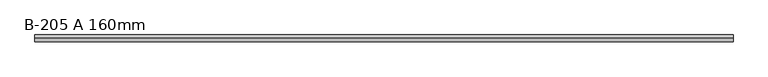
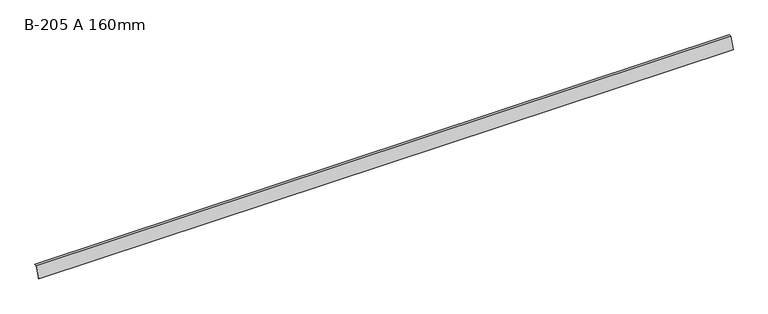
"""IFC4 building model written with IfcOpenShell, lengths in millimetres: proxy geometry, GROVIK_Flashing_Eaves : B-205 A 160mm."""

import ifcopenshell
import ifcopenshell.guid

model = None  # the IFC model being written
_history = None  # IfcOwnerHistory: only IFC2X3 demands one
_inside = {}  # id of a spatial element -> (the spatial element, [elements in it])
_under = {}  # id of a project, library or spatial element -> (it, [spatial elements below it])
_declared = {}  # id of a project -> (the project, [libraries it declares])
_typed = {}  # id of a type object -> (the type object, [elements of that type])
_made_of = {}  # id of a material, layer set ... -> (it, [elements and type objects made of it])


def new_model(schema):
    """Start an empty IFC model of exactly this schema.

    Asked for "IFC4X3", IfcOpenShell would pick the latest addendum, in which some entities
    have other attributes; the version numbers below select the first issue.
    IFC2X3 requires an IfcOwnerHistory on every rooted entity: one is made here for all.
    """
    global model, _history
    if schema == "IFC4X3":
        model = ifcopenshell.file(schema_version=(4, 3, 0, 0))
    else:
        model = ifcopenshell.file(schema=schema)
    _inside.clear()
    _under.clear()
    _declared.clear()
    _typed.clear()
    _made_of.clear()
    _history = None
    if model.schema == "IFC2X3":
        org = make("IfcOrganization", Name="unknown")
        user = make(
            "IfcPersonAndOrganization",
            ThePerson=make("IfcPerson", FamilyName="unknown"),
            TheOrganization=org,
        )
        app = make(
            "IfcApplication",
            ApplicationDeveloper=org,
            Version="unknown",
            ApplicationFullName="unknown",
            ApplicationIdentifier="unknown",
        )
        _history = make(
            "IfcOwnerHistory",
            OwningUser=user,
            OwningApplication=app,
            ChangeAction="ADDED",
            CreationDate=0,
        )
    return model


def make(cls, **values):
    """One entity of the class cls with the attributes given. An attribute that is None is left unset."""
    return model.create_entity(
        cls, **{name: value for name, value in values.items() if value is not None}
    )


def rooted(cls, **values):
    """An entity with a GlobalId (a new one), such as an element, a storey or a relation."""
    return make(cls, GlobalId=ifcopenshell.guid.new(), OwnerHistory=_history, **values)


def si_unit(unit_type, name, prefix=None):
    """IfcSIUnit, for example si_unit("LENGTHUNIT", "METRE", prefix="MILLI")."""
    return make("IfcSIUnit", UnitType=unit_type, Prefix=prefix, Name=name)


def assignment(units):
    """IfcUnitAssignment: the units of a project."""
    return None if units is None else make("IfcUnitAssignment", Units=units)


def point(xyz):
    """IfcCartesianPoint."""
    return None if xyz is None else make("IfcCartesianPoint", Coordinates=xyz)


def direction(xyz):
    """IfcDirection."""
    return None if xyz is None else make("IfcDirection", DirectionRatios=xyz)


def frame(location, z_axis=None, x_axis=None):
    """IfcAxis2Placement3D, a coordinate frame: its origin and axes. An axis left out is left unset."""
    return make(
        "IfcAxis2Placement3D",
        Location=point(location),
        Axis=direction(z_axis),
        RefDirection=direction(x_axis),
    )


def origin():
    """The frame at (0, 0, 0) with its axes left unset."""
    return frame((0.0, 0.0, 0.0))


def place(relative_to, where):
    """IfcLocalPlacement: puts the frame where relative to a parent placement (None: the world)."""
    return make(
        "IfcLocalPlacement", PlacementRelTo=relative_to, RelativePlacement=where
    )


def context(
    kind, dimensions, precision=None, world=None, true_north=None, identifier=None
):
    """IfcGeometricRepresentationContext, for example the 3D "Model" context."""
    return make(
        "IfcGeometricRepresentationContext",
        ContextIdentifier=identifier,
        ContextType=kind,
        CoordinateSpaceDimension=dimensions,
        Precision=precision,
        WorldCoordinateSystem=world,
        TrueNorth=true_north,
    )


def project(units=None, contexts=None):
    """IfcProject with its units and contexts."""
    return rooted(
        "IfcProject",
        Name="project",
        RepresentationContexts=contexts,
        UnitsInContext=assignment(units),
    )


def spatial(cls, under=None, at=None, **own):
    """A site, building, storey or space (cls), placed at a placement, below another one or the project."""
    s = rooted(cls, ObjectPlacement=at, **own)
    if under is not None:
        _under.setdefault(under.id(), (under, []))[1].append(s)
    return s


def polyline(points):
    """IfcPolyline through the points."""
    return make("IfcPolyline", Points=[point(p) for p in points])


def outline(outer, holes=None, kind="AREA"):
    """IfcArbitraryClosedProfileDef: a profile drawn as a closed curve; with holes, ...WithVoids."""
    if holes is None:
        return make("IfcArbitraryClosedProfileDef", ProfileType=kind, OuterCurve=outer)
    return make(
        "IfcArbitraryProfileDefWithVoids",
        ProfileType=kind,
        OuterCurve=outer,
        InnerCurves=holes,
    )


def extrude(swept, where, along, depth):
    """IfcExtrudedAreaSolid: the profile swept, set in the frame where, extruded along a direction by depth."""
    return make(
        "IfcExtrudedAreaSolid",
        SweptArea=swept,
        Position=where,
        ExtrudedDirection=direction(along),
        Depth=depth,
    )


def shape(context_of_items, identifier, shape_type, items):
    """IfcShapeRepresentation: the items that make up one representation, for example the "Body"."""
    return make(
        "IfcShapeRepresentation",
        ContextOfItems=context_of_items,
        RepresentationIdentifier=identifier,
        RepresentationType=shape_type,
        Items=items,
    )


def source(mapping_origin, context_of_items, identifier, shape_type, items):
    """IfcRepresentationMap: a shape defined once, which mapped items show again and again."""
    return make(
        "IfcRepresentationMap",
        MappingOrigin=mapping_origin,
        MappedRepresentation=shape(context_of_items, identifier, shape_type, items),
    )


def transform(
    local_origin,
    x_axis=None,
    y_axis=None,
    z_axis=None,
    scale=None,
    scale2=None,
    scale3=None,
    uniform=True,
):
    """IfcCartesianTransformationOperator3D, or its non-uniform kind. x_axis, y_axis, z_axis: its Axis1, 2, 3."""
    if uniform:
        return make(
            "IfcCartesianTransformationOperator3D",
            Axis1=direction(x_axis),
            Axis2=direction(y_axis),
            LocalOrigin=point(local_origin),
            Scale=scale,
            Axis3=direction(z_axis),
        )
    return make(
        "IfcCartesianTransformationOperator3DnonUniform",
        Axis1=direction(x_axis),
        Axis2=direction(y_axis),
        LocalOrigin=point(local_origin),
        Scale=scale,
        Axis3=direction(z_axis),
        Scale2=scale2,
        Scale3=scale3,
    )


def mapped(mapping_source, mapping_target):
    """IfcMappedItem: shows the shape of a source again, moved by a transform."""
    return make(
        "IfcMappedItem", MappingSource=mapping_source, MappingTarget=mapping_target
    )


def made_of(thing, what):
    """Note that an element or type object is made of a material, layer set ...; save() writes the relation."""
    if what is not None:
        _made_of.setdefault(what.id(), (what, []))[1].append(thing)
    return thing


def element(
    cls,
    number,
    at=None,
    inside=None,
    cuts=None,
    type_object=None,
    material=None,
    context=None,
    identifier="Body",
    shape_type=None,
    held_by="IfcProductDefinitionShape",
    body=None,
    shapes=None,
    **own,
):
    """One element of the class cls, such as IfcWall. Its Tag is "e" and its number.

    at: its placement. inside: the storey or other place that contains it. cuts: it is an
    opening in that element (IfcRelVoidsElement). A single representation is given by context,
    identifier, shape_type and body (its items); several are given by shapes. held_by: the class
    of the entity that holds the representations. save() writes the other relations.
    """
    e = rooted(cls, Tag="e%d" % number, ObjectPlacement=at, **own)
    if body is not None:
        shapes = [shape(context, identifier, shape_type, body)]
    if shapes is not None:
        e.Representation = make(held_by, Representations=shapes)
    if inside is not None:
        _inside.setdefault(inside.id(), (inside, []))[1].append(e)
    if cuts is not None:
        rooted(
            "IfcRelVoidsElement", RelatingBuildingElement=cuts, RelatedOpeningElement=e
        )
    if type_object is not None:
        _typed.setdefault(type_object.id(), (type_object, []))[1].append(e)
    return made_of(e, material)


def aggregate(whole, parts):
    """IfcRelAggregates: a whole, such as a stair, and the parts it consists of."""
    return rooted("IfcRelAggregates", RelatingObject=whole, RelatedObjects=parts)


def save(model, path):
    """Write the relations noted so far, then the file.

    IfcRelAggregates (storeys below a building ...), IfcRelContainedInSpatialStructure (elements
    in a storey), IfcRelDefinesByType, IfcRelAssociatesMaterial and IfcRelDeclares: one each for
    every whole, place, type object, material and project.
    """
    for whole, parts in _under.values():
        aggregate(whole, parts)
    for where, things in _inside.values():
        rooted(
            "IfcRelContainedInSpatialStructure",
            RelatedElements=things,
            RelatingStructure=where,
        )
    for kind, things in _typed.values():
        rooted("IfcRelDefinesByType", RelatedObjects=things, RelatingType=kind)
    for what, things in _made_of.values():
        rooted("IfcRelAssociatesMaterial", RelatedObjects=things, RelatingMaterial=what)
    for by, libraries in _declared.values():
        rooted("IfcRelDeclares", RelatingContext=by, RelatedDefinitions=libraries)
    model.write(path)


def b_205_a_160mm_ba62c7e3(model_context):
    return source(origin(), model_context, "Body", "SweptSolid", [
        extrude(outline(polyline([(-0.6918582, 0.9880759), (-57.9129574, -148.077984), (-48.2100002, -145.6587651), (-47.9680783, -146.6290608), (-59.5349563, -149.5130074), (-1.3837164, 1.9761518), (33.9599168, 2.5930772), (33.9773692, 1.5932295), (-0.6918582, 0.9880759)])), frame((0.0, 0.0, 0.0), z_axis=(1.0, 0.0, 0.0), x_axis=(0.0, 1.0, 0.0)), (0.0, 0.0, 1.0), 9320.0),
    ])


if __name__ == "__main__":
    model = new_model("IFC4")
    model_context = context("Model", 3, world=origin())
    ifc_project = project(units=[si_unit("LENGTHUNIT", "METRE", prefix="MILLI")], contexts=[model_context])
    site = spatial("IfcSite", under=ifc_project)
    building = spatial("IfcBuilding", under=site)
    placement = place(None, origin())
    b_205_a_160mm_shape = b_205_a_160mm_ba62c7e3(model_context)
    element("IfcBuildingElementProxy", 1, Name="GROVIK_Flashing_Eaves : B-205 A 160mm", ObjectType="GROVIK_Flashing_Eaves : B-205 A 160mm", at=placement, inside=building, context=model_context, shape_type="MappedRepresentation", body=[
        mapped(b_205_a_160mm_shape, transform((0.0, 0.0, 0.0), x_axis=(1.0, 0.0, 0.0), y_axis=(0.0, 1.0, 0.0), z_axis=(0.0, 0.0, 1.0))),
    ])
    save(model, "model.ifc")
